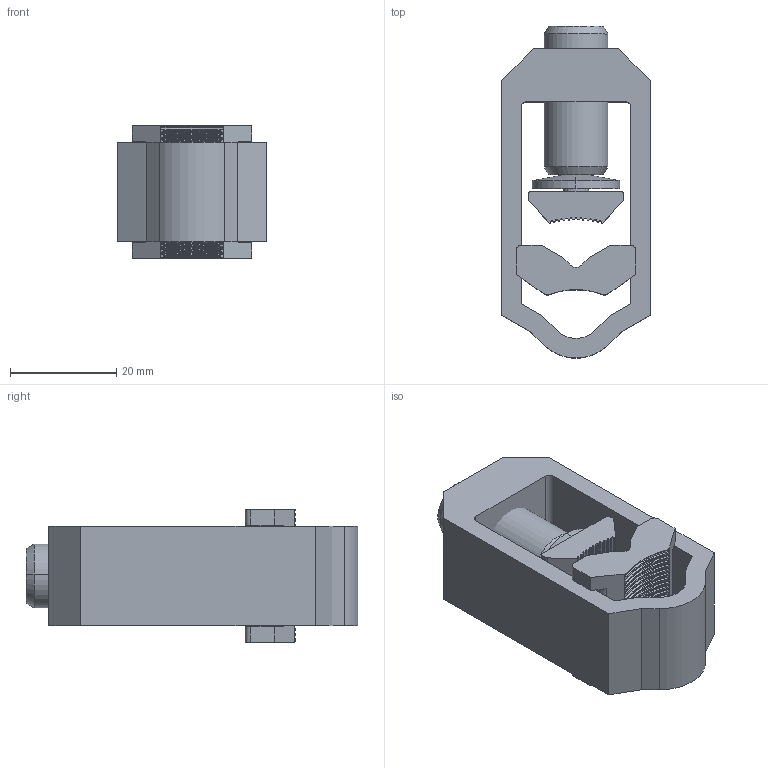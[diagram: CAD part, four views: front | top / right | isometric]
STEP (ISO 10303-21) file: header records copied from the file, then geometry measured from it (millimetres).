
FILE_DESCRIPTION (( 'STEP AP214' ), '1' );
FILE_NAME ('2 25-120SW.STEP', '2010-03-18T11:59:37', ( '£ukaszC' ), ( '' ), 'SwSTEP 2.0', 'SolidWorks 2008', '' );
FILE_SCHEMA (( 'AUTOMOTIVE_DESIGN' ));
Length unit declared in the file: millimetre
Products named in the file (6): 2 25-120SW; 4.2-25120SW.01.00.00; 4.2-25120SW.02.00.00_Domyœlna; 4.2-25120SW.03.00.00; 4.2-25120SW.05.00.00; 4.2-25120SW.04.00.00
Assembly tree (5 placements, depth 2):
  2 25-120SW
    4.2-25120SW.01.00.00
    4.2-25120SW.03.00.00
    4.2-25120SW.04.00.00
    4.2-25120SW.05.00.00
    4.2-25120SW.02.00.00_Domyœlna
Bounding box: 28 x 62.43 x 25 mm (x, y, z)
Volume: 18771.5 mm3; surface area: 11642.1 mm2
Topology: 5 solids, 5 shells, 1315 faces, 3207 edges, 1901 vertices
Faces by surface type: cylinder 532, plane 452, torus 208, cone 121, bspline 2
Entity records: 38901 total; most frequent: CARTESIAN_POINT 9611, ORIENTED_EDGE 6410, DIRECTION 5796, EDGE_CURVE 3205, AXIS2_PLACEMENT_3D 2102, VERTEX_POINT 1901, LINE 1592, VECTOR 1592
